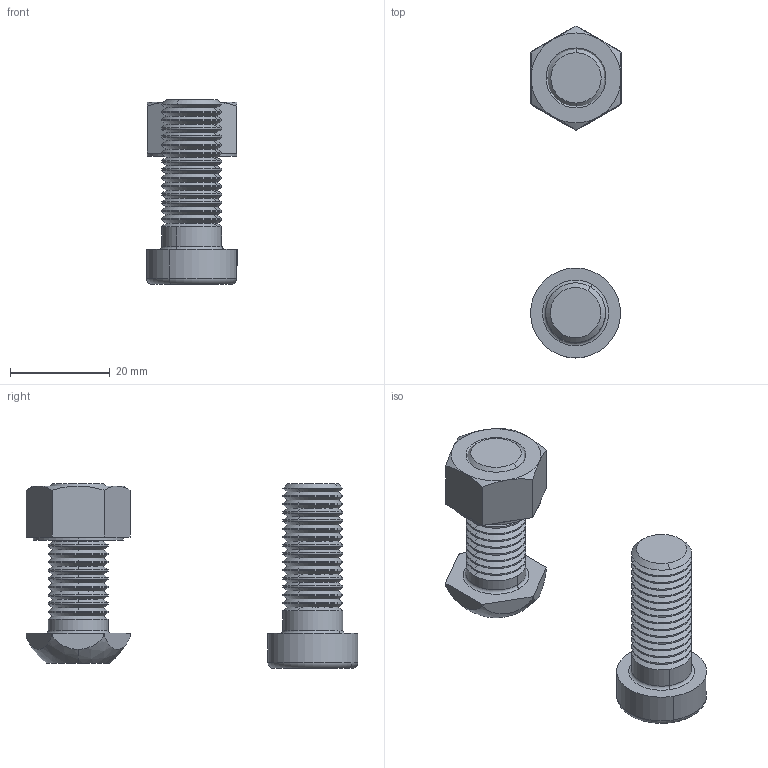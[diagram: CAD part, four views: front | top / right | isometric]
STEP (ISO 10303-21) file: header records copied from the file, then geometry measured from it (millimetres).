
FILE_DESCRIPTION (( 'STEP AP203' ), '1' );
FILE_NAME ('502170_Bef.-Satz Rollen Ø100-Ø125 mit RL Ø12,5.step', '2022-07-29T06:28:54', ( '' ), ( '' ), 'SwSTEP 2.0', 'SolidWorks 2021', '' );
FILE_SCHEMA (( 'CONFIG_CONTROL_DESIGN' ));
Length unit declared in the file: millimetre
Products named in the file (4): 99900036 Rollenschraube M12x30_ISO 7380 - M12 x 30 - 30S; DIN 7984 - M12 x 30 --- 30S_DIN 7984 - M12 x 30 --- 30S; 502170_Bef.-Satz Rollen Ø100-Ø125 mit RL Ø12,5; 999222 Sechskantmutter M12 selbstsichernd_Hexagon Nut ISO 4032 - M12 - W - N
Assembly tree (3 placements, depth 2):
  502170_Bef.-Satz Rollen Ø100-Ø125 mit RL Ø12,5
    999222 Sechskantmutter M12 selbstsichernd_Hexagon Nut ISO 4032 - M12 - W - N
    DIN 7984 - M12 x 30 --- 30S_DIN 7984 - M12 x 30 --- 30S
    99900036 Rollenschraube M12x30_ISO 7380 - M12 x 30 - 30S
Bounding box: 18.19 x 66.4 x 37 mm (x, y, z)
Volume: 11035.3 mm3; surface area: 6351.3 mm2
Topology: 3 solids, 3 shells, 267 faces, 677 edges, 417 vertices
Faces by surface type: cone 140, cylinder 81, plane 38, torus 6, sphere 2
Entity records: 8573 total; most frequent: DIRECTION 1603, CARTESIAN_POINT 1433, ORIENTED_EDGE 1350, EDGE_CURVE 675, AXIS2_PLACEMENT_3D 667, VERTEX_POINT 417, CIRCLE 394, EDGE_LOOP 272
